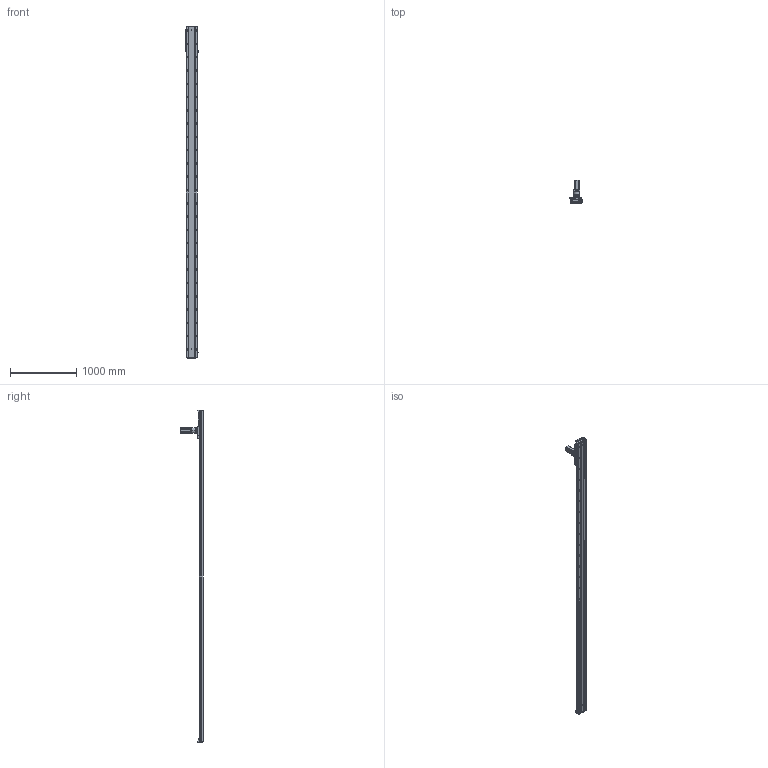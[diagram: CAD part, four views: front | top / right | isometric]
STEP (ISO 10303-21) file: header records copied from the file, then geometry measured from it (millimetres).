
FILE_DESCRIPTION (( 'STEP AP203' ), '1' );
FILE_NAME ('RY170-C-1000-UK.SLDASM_4500.step', '2021-03-03T00:50:42', ( '盈信电脑' ), ( '东莞市道滘镇水果街19号' ), 'SwSTEP 2.0', 'SolidWorks 2012', '' );
FILE_SCHEMA (( 'CONFIG_CONTROL_DESIGN' ));
Products named in the file (13): RY170-喘沭賑輸; RY170-C-1000-UK.SLDASM_4500; TF080等撰; 左旋斜齿齿轮_M2_22齿_内孔20; RY170-喘沭滅袉蝶輸; 怢湛750W萇儂ㄗ80遺ㄘ; RY170-喘謫萇儂覃誹啣; RY170外置感应片(200共用）; RY170綴裔啣ㄗ蜊秶ㄘ; 覜茼ん672; 絳寢賑輸EGH20CA; RY170-1000-喘沭耀郪絳寢EGH20CA_4500; RY170-1000齿条模组型材底座_4500
Assembly tree (22 placements, depth 2):
  RY170-C-1000-UK.SLDASM_4500
    RY170-1000齿条模组型材底座_4500
    絳寢賑輸EGH20CA  x6
    RY170-1000-喘沭耀郪絳寢EGH20CA_4500  x2
    RY170綴裔啣ㄗ蜊秶ㄘ  x2
    覜茼ん672  x3
    RY170外置感应片(200共用）
    RY170-喘謫萇儂覃誹啣
    怢湛750W萇儂ㄗ80遺ㄘ
    RY170-喘沭滅袉蝶輸  x2
    TF080等撰
    左旋斜齿齿轮_M2_22齿_内孔20
    RY170-喘沭賑輸
Bounding box: 188.7 x 343.5 x 5000 mm (x, y, z)
Volume: 23488489.5 mm3; surface area: 6225642.5 mm2
Topology: 24 solids, 24 shells, 5685 faces, 16410 edges, 10395 vertices
Faces by surface type: cylinder 2566, plane 2531, cone 534, bspline 50, torus 4
Entity records: 137180 total; most frequent: CARTESIAN_POINT 34903, ORIENTED_EDGE 21734, DIRECTION 20656, EDGE_CURVE 10867, AXIS2_PLACEMENT_3D 7799, VERTEX_POINT 7057, LINE 5058, VECTOR 5058
